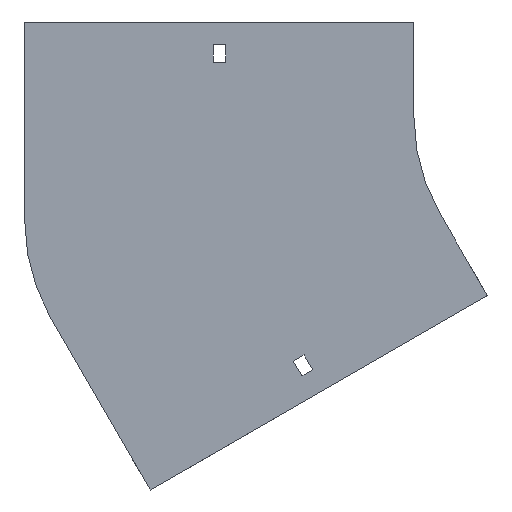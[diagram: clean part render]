
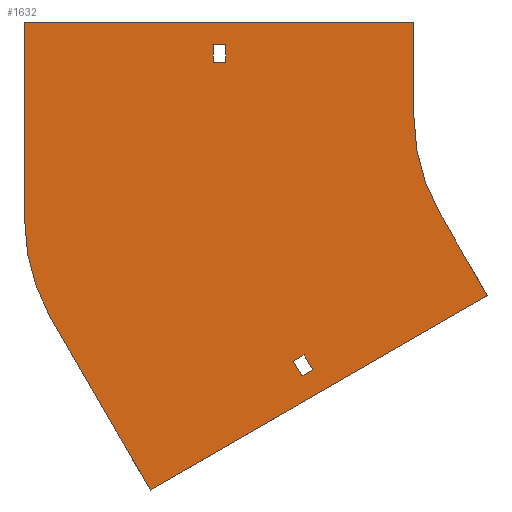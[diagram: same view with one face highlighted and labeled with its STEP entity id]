
A CAD part, front view. The second image highlights one B-rep face of the part: STEP entity #1632.
In plain terms, the highlighted planar face has unit normal (0, -1, 0).
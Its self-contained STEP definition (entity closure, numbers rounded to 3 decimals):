
#1 = EDGE_CURVE ( 'NONE', #745, #1431, #869, .T. ) ;
#13 = DIRECTION ( 'NONE',  ( 0.5, 0., -0.866 ) ) ;
#22 = LINE ( 'NONE', #1536, #1183 ) ;
#34 = DIRECTION ( 'NONE',  ( -0.866, 0., -0.5 ) ) ;
#49 = CARTESIAN_POINT ( 'NONE',  ( -205.25, 0., 29. ) ) ;
#59 = LINE ( 'NONE', #1114, #547 ) ;
#71 = EDGE_CURVE ( 'NONE', #449, #745, #22, .T. ) ;
#72 = DIRECTION ( 'NONE',  ( 0., 0., 1. ) ) ;
#86 = CARTESIAN_POINT ( 'NONE',  ( -238.272, 0., -195.301 ) ) ;
#99 = VERTEX_POINT ( 'NONE', #1842 ) ;
#100 = PLANE ( 'NONE',  #155 ) ;
#127 = CARTESIAN_POINT ( 'NONE',  ( 0., 0., 0. ) ) ;
#130 = VECTOR ( 'NONE', #1625, 1000. ) ;
#155 = AXIS2_PLACEMENT_3D ( 'NONE', #993, #1598, #710 ) ;
#169 = VERTEX_POINT ( 'NONE', #1552 ) ;
#170 = DIRECTION ( 'NONE',  ( 0.5, 0., -0.866 ) ) ;
#176 = VERTEX_POINT ( 'NONE', #1125 ) ;
#195 = CARTESIAN_POINT ( 'NONE',  ( -304., 0., -54.662 ) ) ;
#198 = CARTESIAN_POINT ( 'NONE',  ( -86.603, 0., -50. ) ) ;
#210 = DIRECTION ( 'NONE',  ( 0., 0., 1. ) ) ;
#224 = CARTESIAN_POINT ( 'NONE',  ( -163.252, 0., -127.74 ) ) ;
#235 = ORIENTED_EDGE ( 'NONE', *, *, #1600, .F. ) ;
#240 = VERTEX_POINT ( 'NONE', #415 ) ;
#256 = EDGE_LOOP ( 'NONE', ( #1052, #1011, #610, #394 ) ) ;
#264 = CARTESIAN_POINT ( 'NONE',  ( -304., 0., 50. ) ) ;
#267 = ORIENTED_EDGE ( 'NONE', *, *, #500, .F. ) ;
#282 = AXIS2_PLACEMENT_3D ( 'NONE', #127, #738, #940 ) ;
#292 = VERTEX_POINT ( 'NONE', #720 ) ;
#340 = DIRECTION ( 'NONE',  ( -0.5, 0., 0.866 ) ) ;
#357 = DIRECTION ( 'NONE',  ( -1., 0., 0. ) ) ;
#394 = ORIENTED_EDGE ( 'NONE', *, *, #853, .T. ) ;
#415 = CARTESIAN_POINT ( 'NONE',  ( -205.25, 0., 29. ) ) ;
#435 = AXIS2_PLACEMENT_3D ( 'NONE', #1852, #1877, #72 ) ;
#449 = VERTEX_POINT ( 'NONE', #224 ) ;
#500 = EDGE_CURVE ( 'NONE', #292, #677, #1016, .T. ) ;
#535 = FACE_BOUND ( 'NONE', #874, .T. ) ;
#547 = VECTOR ( 'NONE', #964, 1000. ) ;
#550 = FACE_OUTER_BOUND ( 'NONE', #898, .T. ) ;
#565 = VERTEX_POINT ( 'NONE', #86 ) ;
#576 = EDGE_CURVE ( 'NONE', #779, #292, #1461, .T. ) ;
#610 = ORIENTED_EDGE ( 'NONE', *, *, #1901, .T. ) ;
#633 = VECTOR ( 'NONE', #1152, 1000. ) ;
#644 = LINE ( 'NONE', #195, #856 ) ;
#677 = VERTEX_POINT ( 'NONE', #1358 ) ;
#690 = CARTESIAN_POINT ( 'NONE',  ( -158.752, 0., -135.534 ) ) ;
#705 = VECTOR ( 'NONE', #170, 1000. ) ;
#710 = DIRECTION ( 'NONE',  ( 0., 0., -1. ) ) ;
#719 = VERTEX_POINT ( 'NONE', #1777 ) ;
#720 = CARTESIAN_POINT ( 'NONE',  ( -100., 0., 50. ) ) ;
#738 = DIRECTION ( 'NONE',  ( 0., -1., 0. ) ) ;
#745 = VERTEX_POINT ( 'NONE', #1866 ) ;
#755 = EDGE_CURVE ( 'NONE', #240, #719, #780, .T. ) ;
#779 = VERTEX_POINT ( 'NONE', #1821 ) ;
#780 = LINE ( 'NONE', #49, #859 ) ;
#788 = LINE ( 'NONE', #1388, #1350 ) ;
#801 = CARTESIAN_POINT ( 'NONE',  ( -157.623, 0., -124.49 ) ) ;
#811 = VERTEX_POINT ( 'NONE', #198 ) ;
#853 = EDGE_CURVE ( 'NONE', #1280, #240, #921, .T. ) ;
#856 = VECTOR ( 'NONE', #1818, 1000. ) ;
#859 = VECTOR ( 'NONE', #210, 1000. ) ;
#869 = LINE ( 'NONE', #690, #1754 ) ;
#874 = EDGE_LOOP ( 'NONE', ( #1411, #1184, #1865, #235 ) ) ;
#898 = EDGE_LOOP ( 'NONE', ( #1330, #1808, #1260, #950, #1083, #990, #1771, #267 ) ) ;
#900 = CARTESIAN_POINT ( 'NONE',  ( -153.123, 0., -132.284 ) ) ;
#921 = LINE ( 'NONE', #1832, #941 ) ;
#927 = CARTESIAN_POINT ( 'NONE',  ( -157.623, 0., -124.49 ) ) ;
#940 = DIRECTION ( 'NONE',  ( 0., 0., -1. ) ) ;
#941 = VECTOR ( 'NONE', #357, 1000. ) ;
#950 = ORIENTED_EDGE ( 'NONE', *, *, #1071, .F. ) ;
#964 = DIRECTION ( 'NONE',  ( -0.866, 0., -0.5 ) ) ;
#990 = ORIENTED_EDGE ( 'NONE', *, *, #1095, .F. ) ;
#993 = CARTESIAN_POINT ( 'NONE',  ( 0., 0., 0. ) ) ;
#1011 = ORIENTED_EDGE ( 'NONE', *, *, #1475, .T. ) ;
#1016 = LINE ( 'NONE', #1129, #130 ) ;
#1046 = EDGE_CURVE ( 'NONE', #677, #811, #1541, .T. ) ;
#1047 = CARTESIAN_POINT ( 'NONE',  ( -205.25, 0., 38. ) ) ;
#1052 = ORIENTED_EDGE ( 'NONE', *, *, #755, .T. ) ;
#1071 = EDGE_CURVE ( 'NONE', #565, #99, #1548, .T. ) ;
#1081 = EDGE_CURVE ( 'NONE', #169, #565, #788, .T. ) ;
#1083 = ORIENTED_EDGE ( 'NONE', *, *, #1081, .F. ) ;
#1086 = EDGE_CURVE ( 'NONE', #176, #779, #644, .T. ) ;
#1095 = EDGE_CURVE ( 'NONE', #811, #169, #1237, .T. ) ;
#1096 = DIRECTION ( 'NONE',  ( -0.5, 0., 0.866 ) ) ;
#1114 = CARTESIAN_POINT ( 'NONE',  ( -163.252, 0., -127.74 ) ) ;
#1122 = LINE ( 'NONE', #801, #1297 ) ;
#1125 = CARTESIAN_POINT ( 'NONE',  ( -304., 0., -54.662 ) ) ;
#1129 = CARTESIAN_POINT ( 'NONE',  ( -100., 0., 50. ) ) ;
#1138 = CARTESIAN_POINT ( 'NONE',  ( -198.75, 0., 29. ) ) ;
#1152 = DIRECTION ( 'NONE',  ( 1., 0., 0. ) ) ;
#1183 = VECTOR ( 'NONE', #13, 1000. ) ;
#1184 = ORIENTED_EDGE ( 'NONE', *, *, #71, .F. ) ;
#1192 = VECTOR ( 'NONE', #340, 1000. ) ;
#1237 = LINE ( 'NONE', #1680, #705 ) ;
#1260 = ORIENTED_EDGE ( 'NONE', *, *, #1787, .F. ) ;
#1280 = VERTEX_POINT ( 'NONE', #1138 ) ;
#1290 = FACE_BOUND ( 'NONE', #256, .T. ) ;
#1297 = VECTOR ( 'NONE', #1096, 1000. ) ;
#1330 = ORIENTED_EDGE ( 'NONE', *, *, #576, .F. ) ;
#1350 = VECTOR ( 'NONE', #34, 1000. ) ;
#1358 = CARTESIAN_POINT ( 'NONE',  ( -100., 0., 0. ) ) ;
#1370 = CARTESIAN_POINT ( 'NONE',  ( -198.75, 0., 38. ) ) ;
#1382 = CARTESIAN_POINT ( 'NONE',  ( -198.75, 0., 29. ) ) ;
#1388 = CARTESIAN_POINT ( 'NONE',  ( -61.603, 0., -93.301 ) ) ;
#1411 = ORIENTED_EDGE ( 'NONE', *, *, #1, .F. ) ;
#1431 = VERTEX_POINT ( 'NONE', #900 ) ;
#1461 = LINE ( 'NONE', #264, #633 ) ;
#1475 = EDGE_CURVE ( 'NONE', #719, #1491, #1659, .T. ) ;
#1491 = VERTEX_POINT ( 'NONE', #1370 ) ;
#1509 = VECTOR ( 'NONE', #1651, 1000. ) ;
#1518 = VERTEX_POINT ( 'NONE', #927 ) ;
#1536 = CARTESIAN_POINT ( 'NONE',  ( -163.252, 0., -127.74 ) ) ;
#1541 = CIRCLE ( 'NONE', #282, 100. ) ;
#1548 = LINE ( 'NONE', #1668, #1192 ) ;
#1552 = CARTESIAN_POINT ( 'NONE',  ( -61.603, 0., -93.301 ) ) ;
#1566 = DIRECTION ( 'NONE',  ( 0., 0., -1. ) ) ;
#1589 = DIRECTION ( 'NONE',  ( 0.866, 0., 0.5 ) ) ;
#1598 = DIRECTION ( 'NONE',  ( 0., -1., 0. ) ) ;
#1600 = EDGE_CURVE ( 'NONE', #1431, #1518, #1122, .T. ) ;
#1615 = CIRCLE ( 'NONE', #435, 100. ) ;
#1625 = DIRECTION ( 'NONE',  ( 0., 0., -1. ) ) ;
#1632 = ADVANCED_FACE ( 'NONE', ( #1290, #550, #535 ), #100, .T. ) ;
#1651 = DIRECTION ( 'NONE',  ( 1., 0., 0. ) ) ;
#1659 = LINE ( 'NONE', #1047, #1509 ) ;
#1668 = CARTESIAN_POINT ( 'NONE',  ( -238.272, 0., -195.301 ) ) ;
#1680 = CARTESIAN_POINT ( 'NONE',  ( -86.603, 0., -50. ) ) ;
#1754 = VECTOR ( 'NONE', #1589, 1000. ) ;
#1771 = ORIENTED_EDGE ( 'NONE', *, *, #1046, .F. ) ;
#1777 = CARTESIAN_POINT ( 'NONE',  ( -205.25, 0., 38. ) ) ;
#1787 = EDGE_CURVE ( 'NONE', #99, #176, #1615, .T. ) ;
#1797 = VECTOR ( 'NONE', #1566, 1000. ) ;
#1808 = ORIENTED_EDGE ( 'NONE', *, *, #1086, .F. ) ;
#1818 = DIRECTION ( 'NONE',  ( 0., 0., 1. ) ) ;
#1821 = CARTESIAN_POINT ( 'NONE',  ( -304., 0., 50. ) ) ;
#1832 = CARTESIAN_POINT ( 'NONE',  ( -205.25, 0., 29. ) ) ;
#1842 = CARTESIAN_POINT ( 'NONE',  ( -290.603, 0., -104.662 ) ) ;
#1852 = CARTESIAN_POINT ( 'NONE',  ( -204., 0., -54.662 ) ) ;
#1862 = EDGE_CURVE ( 'NONE', #1518, #449, #59, .T. ) ;
#1865 = ORIENTED_EDGE ( 'NONE', *, *, #1862, .F. ) ;
#1866 = CARTESIAN_POINT ( 'NONE',  ( -158.752, 0., -135.534 ) ) ;
#1872 = LINE ( 'NONE', #1382, #1797 ) ;
#1877 = DIRECTION ( 'NONE',  ( 0., 1., 0. ) ) ;
#1901 = EDGE_CURVE ( 'NONE', #1491, #1280, #1872, .T. ) ;
